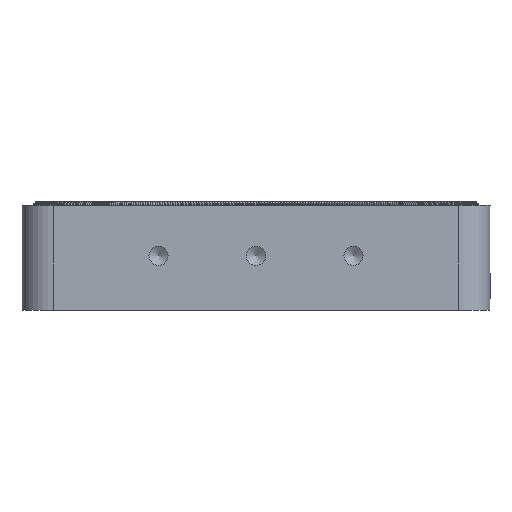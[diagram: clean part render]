
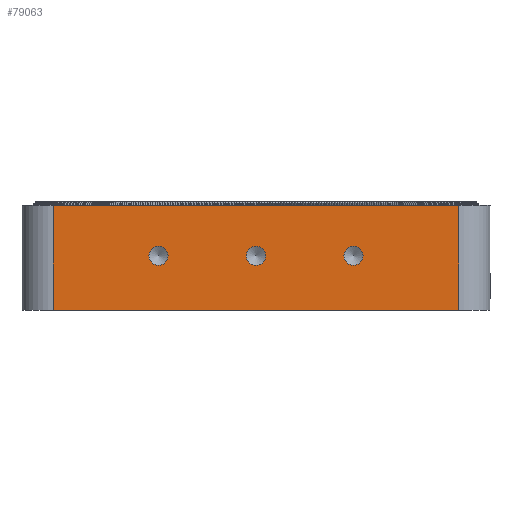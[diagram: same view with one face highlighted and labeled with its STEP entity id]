
A CAD part, front view. The second image highlights one B-rep face of the part: STEP entity #79063.
In plain terms, the highlighted planar face has unit normal (0, -1, 0).
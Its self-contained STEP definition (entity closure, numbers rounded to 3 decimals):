
#8540=LINE($,#137200,#15726);
#8573=LINE($,#137348,#15759);
#8576=LINE($,#137355,#15762);
#8579=LINE($,#137366,#15765);
#8580=LINE($,#137368,#15766);
#8581=LINE($,#137370,#15767);
#8582=LINE($,#137372,#15768);
#8583=LINE($,#137373,#15769);
#15726=VECTOR($,#101440,104.);
#15759=VECTOR($,#101595,26.9);
#15762=VECTOR($,#101602,51.95);
#15765=VECTOR($,#101611,0.01);
#15766=VECTOR($,#101612,26.9);
#15767=VECTOR($,#101613,51.95);
#15768=VECTOR($,#101614,0.01);
#15769=VECTOR($,#101615,0.1);
#20493=PLANE($,#84488);
#20880=FACE_BOUND($,#29060,.T.);
#20881=FACE_BOUND($,#29061,.T.);
#20882=FACE_BOUND($,#29062,.T.);
#24740=FACE_OUTER_BOUND($,#29059,.T.);
#29059=EDGE_LOOP($,(#72946,#72947,#72948,#72949,#72950,#72951,#72952,#72953));
#29060=EDGE_LOOP($,(#72954));
#29061=EDGE_LOOP($,(#72955));
#29062=EDGE_LOOP($,(#72956));
#31306=CIRCLE($,#84468,2.459);
#31308=CIRCLE($,#84472,2.459);
#31310=CIRCLE($,#84476,2.459);
#38666=VERTEX_POINT($,#137197);
#38667=VERTEX_POINT($,#137199);
#38714=VERTEX_POINT($,#137319);
#38716=VERTEX_POINT($,#137325);
#38718=VERTEX_POINT($,#137331);
#38720=VERTEX_POINT($,#137344);
#38722=VERTEX_POINT($,#137350);
#38728=VERTEX_POINT($,#137365);
#38729=VERTEX_POINT($,#137367);
#38730=VERTEX_POINT($,#137369);
#38731=VERTEX_POINT($,#137371);
#50174=EDGE_CURVE($,#38666,#38667,#8540,.T.);
#50233=EDGE_CURVE($,#38714,#38714,#31306,.T.);
#50235=EDGE_CURVE($,#38716,#38716,#31308,.T.);
#50237=EDGE_CURVE($,#38718,#38718,#31310,.T.);
#50245=EDGE_CURVE($,#38667,#38720,#8573,.T.);
#50249=EDGE_CURVE($,#38722,#38720,#8576,.T.);
#50254=EDGE_CURVE($,#38728,#38722,#8579,.T.);
#50255=EDGE_CURVE($,#38729,#38666,#8580,.T.);
#50256=EDGE_CURVE($,#38729,#38730,#8581,.T.);
#50257=EDGE_CURVE($,#38730,#38731,#8582,.T.);
#50258=EDGE_CURVE($,#38731,#38728,#8583,.T.);
#72946=ORIENTED_EDGE($,*,*,#50254,.T.);
#72947=ORIENTED_EDGE($,*,*,#50249,.T.);
#72948=ORIENTED_EDGE($,*,*,#50245,.F.);
#72949=ORIENTED_EDGE($,*,*,#50174,.F.);
#72950=ORIENTED_EDGE($,*,*,#50255,.F.);
#72951=ORIENTED_EDGE($,*,*,#50256,.T.);
#72952=ORIENTED_EDGE($,*,*,#50257,.T.);
#72953=ORIENTED_EDGE($,*,*,#50258,.T.);
#72954=ORIENTED_EDGE($,*,*,#50233,.T.);
#72955=ORIENTED_EDGE($,*,*,#50235,.T.);
#72956=ORIENTED_EDGE($,*,*,#50237,.T.);
#79063=ADVANCED_FACE($,(#24740,#20880,#20881,#20882),#20493,.T.);
#84468=AXIS2_PLACEMENT_3D($,#137320,#101558,#101559);
#84472=AXIS2_PLACEMENT_3D($,#137326,#101566,#101567);
#84476=AXIS2_PLACEMENT_3D($,#137332,#101574,#101575);
#84488=AXIS2_PLACEMENT_3D($,#137364,#101609,#101610);
#101440=DIRECTION($,(-1.,0.,0.));
#101558=DIRECTION('center_axis',(0.,1.,0.));
#101559=DIRECTION('ref_axis',(1.,0.,0.));
#101566=DIRECTION('center_axis',(0.,1.,0.));
#101567=DIRECTION('ref_axis',(1.,0.,0.));
#101574=DIRECTION('center_axis',(0.,1.,0.));
#101575=DIRECTION('ref_axis',(1.,0.,0.));
#101595=DIRECTION($,(0.,0.,1.));
#101602=DIRECTION($,(-1.,0.,0.));
#101609=DIRECTION('center_axis',(0.,-1.,0.));
#101610=DIRECTION('ref_axis',(0.,0.,-1.));
#101611=DIRECTION($,(0.,0.,1.));
#101612=DIRECTION($,(0.,0.,-1.));
#101613=DIRECTION($,(-1.,0.,0.));
#101614=DIRECTION($,(0.,0.,-1.));
#101615=DIRECTION($,(-1.,0.,0.));
#137197=CARTESIAN_POINT('',(40.028,-70.594,-13.2));
#137199=CARTESIAN_POINT('',(-63.972,-70.594,-13.2));
#137200=CARTESIAN_POINT($,(48.028,-70.594,-13.2));
#137319=CARTESIAN_POINT('',(15.486,-70.594,0.8));
#137320=CARTESIAN_POINT('Origin',(13.028,-70.594,0.8));
#137325=CARTESIAN_POINT('',(-9.514,-70.594,0.8));
#137326=CARTESIAN_POINT('Origin',(-11.972,-70.594,0.8));
#137331=CARTESIAN_POINT('',(-34.514,-70.594,0.8));
#137332=CARTESIAN_POINT('Origin',(-36.972,-70.594,0.8));
#137344=CARTESIAN_POINT('',(-63.972,-70.594,13.7));
#137348=CARTESIAN_POINT($,(-63.972,-70.594,-13.2));
#137350=CARTESIAN_POINT('',(-12.022,-70.594,13.7));
#137355=CARTESIAN_POINT($,(48.028,-70.594,13.7));
#137364=CARTESIAN_POINT('Origin',(48.028,-70.594,-13.2));
#137365=CARTESIAN_POINT('',(-12.022,-70.594,13.69));
#137366=CARTESIAN_POINT($,(-12.022,-70.594,0.25));
#137367=CARTESIAN_POINT('',(40.028,-70.594,13.7));
#137368=CARTESIAN_POINT($,(40.028,-70.594,-13.2));
#137369=CARTESIAN_POINT('',(-11.922,-70.594,13.7));
#137370=CARTESIAN_POINT($,(48.028,-70.594,13.7));
#137371=CARTESIAN_POINT('',(-11.922,-70.594,13.69));
#137372=CARTESIAN_POINT($,(-11.922,-70.594,0.25));
#137373=CARTESIAN_POINT($,(18.028,-70.594,13.69));
